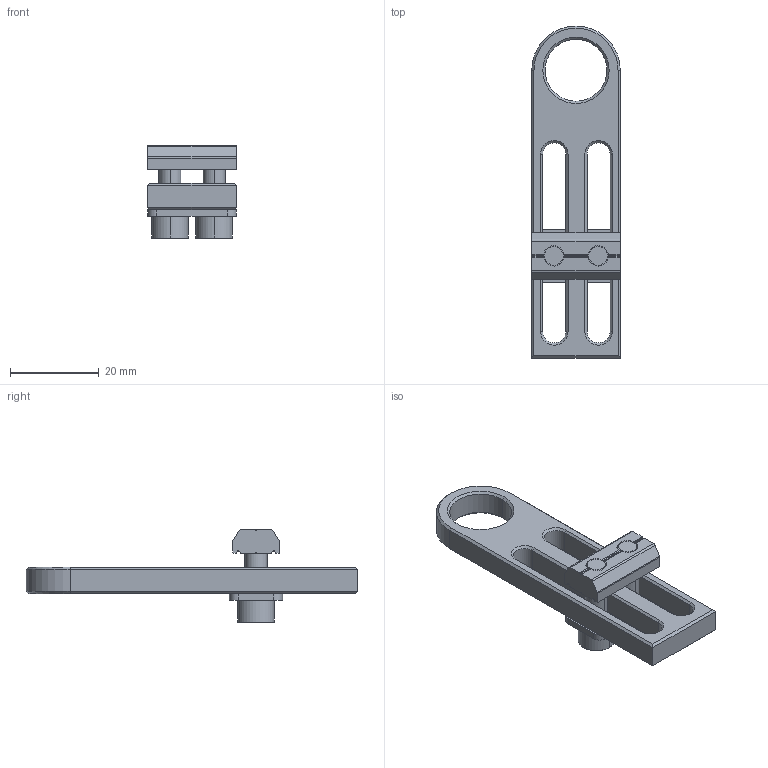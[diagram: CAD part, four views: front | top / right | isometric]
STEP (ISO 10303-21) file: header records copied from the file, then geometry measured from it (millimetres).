
FILE_DESCRIPTION (( 'STEP AP214' ), '1' );
FILE_NAME ('SMBE5-M1440T.STEP', '2023-01-09T08:00:32', ( 'Windows User' ), ( 'P R C' ), 'SwSTEP 2.0', 'SolidWorks 2018', '' );
FILE_SCHEMA (( 'AUTOMOTIVE_DESIGN' ));
Length unit declared in the file: millimetre
Products named in the file (5): PTN-M5P10; PTD-M5P10; PTC-M5L16; SMBE5-M1440; SMBE5-M1440T
Assembly tree (5 placements, depth 2):
  SMBE5-M1440T
    SMBE5-M1440
    PTC-M5L16  x2
    PTN-M5P10
    PTD-M5P10
Bounding box: 20 x 75 x 21 mm (x, y, z)
Volume: 7185.1 mm3; surface area: 6360.8 mm2
Topology: 5 solids, 5 shells, 159 faces, 407 edges, 258 vertices
Faces by surface type: plane 77, cylinder 56, cone 26
Entity records: 4557 total; most frequent: CARTESIAN_POINT 888, ORIENTED_EDGE 730, DIRECTION 711, EDGE_CURVE 365, AXIS2_PLACEMENT_3D 247, VERTEX_POINT 232, LINE 217, VECTOR 217
